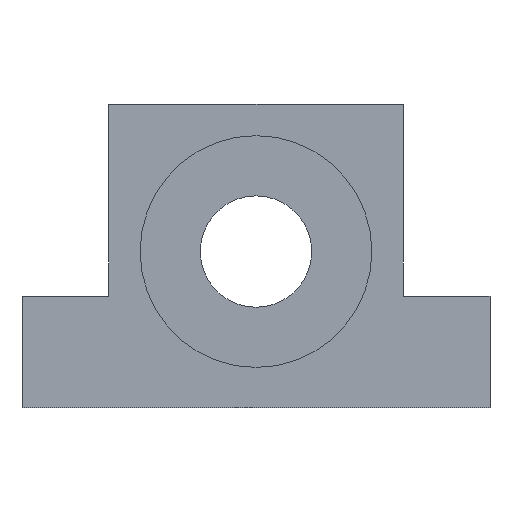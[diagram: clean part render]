
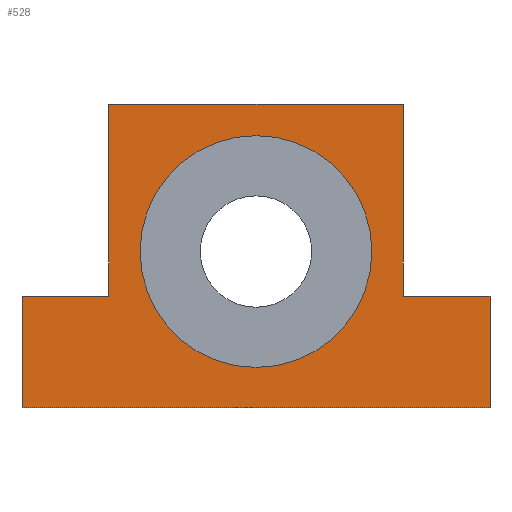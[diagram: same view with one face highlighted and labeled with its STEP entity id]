
A CAD part, left-side view. The second image highlights one B-rep face of the part: STEP entity #528.
In plain terms, the highlighted planar face has unit normal (-1, 0, 0).
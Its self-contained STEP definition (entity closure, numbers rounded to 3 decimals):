
#238=CARTESIAN_POINT('',(0.0,26.0,0.));
#239=VERTEX_POINT('',#238);
#240=CARTESIAN_POINT('',(0.0,0.0,0.0));
#241=DIRECTION('',(1.0,0.0,0.0));
#242=DIRECTION('',(0.0,-1.0,0.0));
#243=AXIS2_PLACEMENT_3D('',#240,#241,#242);
#244=CIRCLE('',#243,26.0);
#245=EDGE_CURVE('',#239,#239,#244,.T.);
#265=CARTESIAN_POINT('',(0.0,-52.5,-10.));
#266=VERTEX_POINT('',#265);
#273=CARTESIAN_POINT('',(0.0,-52.5,-35.));
#274=VERTEX_POINT('',#273);
#275=CARTESIAN_POINT('',(0.0,-52.5,-10.));
#276=DIRECTION('',(0.0,0.0,-1.0));
#277=VECTOR('',#276,25.);
#278=LINE('',#275,#277);
#279=EDGE_CURVE('',#266,#274,#278,.T.);
#303=CARTESIAN_POINT('',(0.0,-33.0,-10.));
#304=VERTEX_POINT('',#303);
#311=CARTESIAN_POINT('',(0.0,-33.0,-10.));
#312=DIRECTION('',(0.0,-1.0,0.0));
#313=VECTOR('',#312,19.5);
#314=LINE('',#311,#313);
#315=EDGE_CURVE('',#304,#266,#314,.T.);
#337=CARTESIAN_POINT('',(0.0,-33.,33.));
#338=VERTEX_POINT('',#337);
#345=CARTESIAN_POINT('',(0.0,-33.,33.));
#346=DIRECTION('',(0.0,0.0,-1.0));
#347=VECTOR('',#346,43.0);
#348=LINE('',#345,#347);
#349=EDGE_CURVE('',#338,#304,#348,.T.);
#368=CARTESIAN_POINT('',(0.0,33.,33.));
#369=VERTEX_POINT('',#368);
#376=CARTESIAN_POINT('',(0.0,33.,33.));
#377=DIRECTION('',(0.0,-1.0,0.0));
#378=VECTOR('',#377,66.);
#379=LINE('',#376,#378);
#380=EDGE_CURVE('',#369,#338,#379,.T.);
#399=CARTESIAN_POINT('',(0.0,33.0,-10.));
#400=VERTEX_POINT('',#399);
#407=CARTESIAN_POINT('',(0.0,33.0,-10.));
#408=DIRECTION('',(0.0,0.0,1.0));
#409=VECTOR('',#408,43.0);
#410=LINE('',#407,#409);
#411=EDGE_CURVE('',#400,#369,#410,.T.);
#430=CARTESIAN_POINT('',(0.0,52.5,-10.));
#431=VERTEX_POINT('',#430);
#438=CARTESIAN_POINT('',(0.0,52.5,-10.));
#439=DIRECTION('',(0.0,-1.0,0.0));
#440=VECTOR('',#439,19.5);
#441=LINE('',#438,#440);
#442=EDGE_CURVE('',#431,#400,#441,.T.);
#464=CARTESIAN_POINT('',(0.0,52.5,-35.));
#465=VERTEX_POINT('',#464);
#472=CARTESIAN_POINT('',(0.0,52.5,-35.));
#473=DIRECTION('',(0.0,0.0,1.0));
#474=VECTOR('',#473,25.);
#475=LINE('',#472,#474);
#476=EDGE_CURVE('',#465,#431,#475,.T.);
#494=CARTESIAN_POINT('',(0.0,-52.5,-35.));
#495=DIRECTION('',(0.0,1.0,0.0));
#496=VECTOR('',#495,105.0);
#497=LINE('',#494,#496);
#498=EDGE_CURVE('',#274,#465,#497,.T.);
#510=CARTESIAN_POINT('',(0.0,0.,-5.847));
#511=DIRECTION('',(1.0,0.0,0.0));
#512=DIRECTION('',(0.0,0.0,-1.0));
#513=AXIS2_PLACEMENT_3D('',#510,#511,#512);
#514=PLANE('',#513);
#515=ORIENTED_EDGE('',*,*,#498,.F.);
#516=ORIENTED_EDGE('',*,*,#279,.F.);
#517=ORIENTED_EDGE('',*,*,#315,.F.);
#518=ORIENTED_EDGE('',*,*,#349,.F.);
#519=ORIENTED_EDGE('',*,*,#380,.F.);
#520=ORIENTED_EDGE('',*,*,#411,.F.);
#521=ORIENTED_EDGE('',*,*,#442,.F.);
#522=ORIENTED_EDGE('',*,*,#476,.F.);
#523=EDGE_LOOP('',(#515,#516,#517,#518,#519,#520,#521,#522));
#524=FACE_OUTER_BOUND('',#523,.T.);
#525=ORIENTED_EDGE('',*,*,#245,.T.);
#526=EDGE_LOOP('',(#525));
#527=FACE_BOUND('',#526,.T.);
#528=ADVANCED_FACE('',(#524,#527),#514,.F.);
